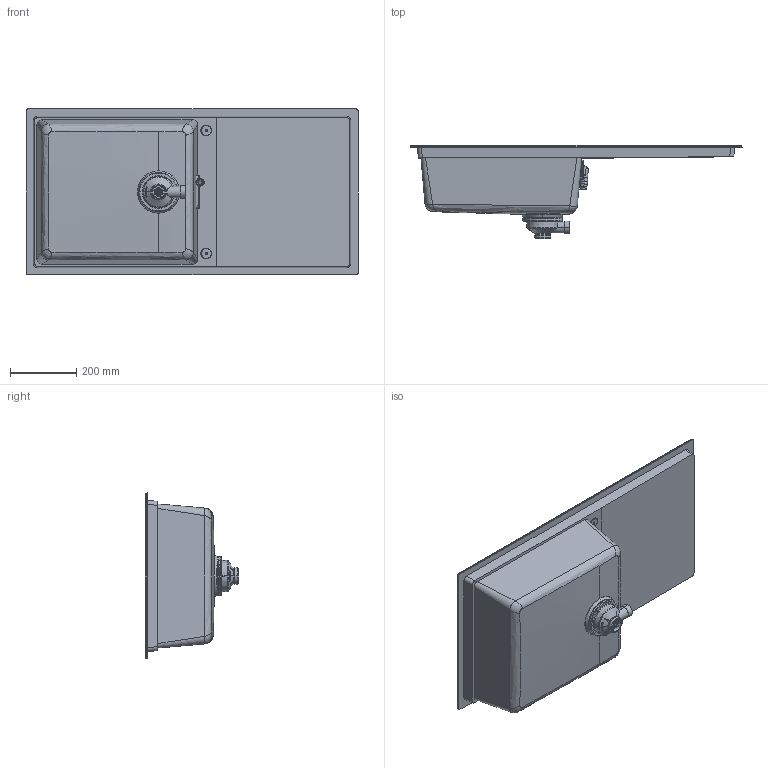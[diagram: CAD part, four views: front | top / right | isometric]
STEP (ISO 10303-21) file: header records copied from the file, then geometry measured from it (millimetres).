
FILE_DESCRIPTION (( 'STEP AP203' ), '1' );
FILE_NAME ('3d_sintesi_480.STEP', '2022-02-16T10:44:04', ( '' ), ( '' ), 'SwSTEP 2.0', 'SolidWorks 2021', '' );
FILE_SCHEMA (( 'CONFIG_CONTROL_DESIGN' ));
Products named in the file (4): TP_rettangolare slim_anonima; 3d_piletta_2021_1via_X_ASSIEME_LAVELLI_Default<A macchina>; 3d_sintesi_480_500; 3d_sintesi_480
Assembly tree (3 placements, depth 2):
  3d_sintesi_480
    3d_sintesi_480_500
    3d_piletta_2021_1via_X_ASSIEME_LAVELLI_Default<A macchina>
    TP_rettangolare slim_anonima
Bounding box: 1000 x 280.96 x 500 mm (x, y, z)
Volume: 6559900.9 mm3; surface area: 1826938.2 mm2
Topology: 10 solids, 10 shells, 3577 faces, 8975 edges, 5477 vertices
Faces by surface type: bspline 1319, cylinder 832, plane 818, cone 377, torus 223, sphere 8
Entity records: 201687 total; most frequent: CARTESIAN_POINT 126232, ORIENTED_EDGE 17848, DIRECTION 12479, EDGE_CURVE 8924, VERTEX_POINT 5476, AXIS2_PLACEMENT_3D 4809, EDGE_LOOP 3772, FACE_OUTER_BOUND 3577
